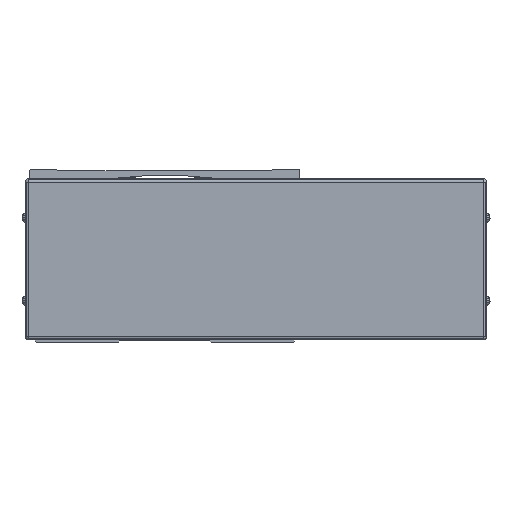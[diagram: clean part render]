
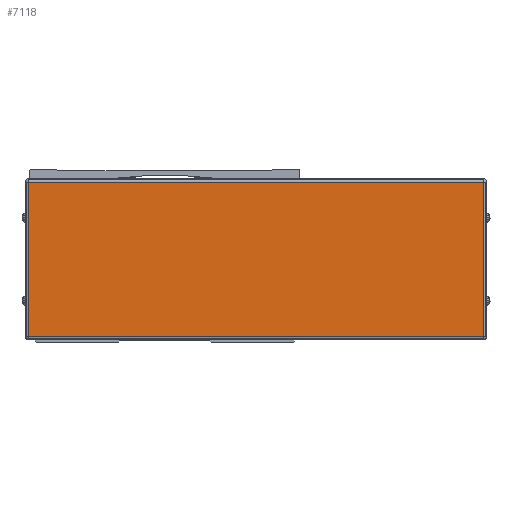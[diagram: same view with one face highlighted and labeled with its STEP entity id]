
A CAD part, front view. The second image highlights one B-rep face of the part: STEP entity #7118.
In plain terms, the highlighted planar face has unit normal (0, -1, 0).
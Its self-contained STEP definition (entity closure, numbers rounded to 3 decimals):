
#7118=ADVANCED_FACE('',(#14638),#14639,.T.);
#14638=FACE_OUTER_BOUND('',#24587,.T.);
#14639=PLANE('',#24588);
#24587=EDGE_LOOP('',(#45734,#45735,#45736,#45737));
#24588=AXIS2_PLACEMENT_3D('',#45738,#45739,#45740);
#45734=ORIENTED_EDGE('',*,*,#49924,.F.);
#45735=ORIENTED_EDGE('',*,*,#56080,.F.);
#45736=ORIENTED_EDGE('',*,*,#57300,.F.);
#45737=ORIENTED_EDGE('',*,*,#54335,.F.);
#45738=CARTESIAN_POINT('',(-545.,52.222,-2.));
#45739=DIRECTION('',(0.,-1.0,0.));
#45740=DIRECTION('',(1.0,0.,0.));
#49924=EDGE_CURVE('',#59723,#59725,#59726,.T.);
#54335=EDGE_CURVE('',#59725,#66709,#66848,.T.);
#56080=EDGE_CURVE('',#67475,#59723,#69162,.T.);
#57300=EDGE_CURVE('',#66709,#67475,#70585,.T.);
#59723=VERTEX_POINT('',#73691);
#59725=VERTEX_POINT('',#73693);
#59726=LINE('',#73694,#73695);
#66709=VERTEX_POINT('',#84055);
#66848=LINE('',#84260,#84261);
#67475=VERTEX_POINT('',#85233);
#69162=LINE('',#87770,#87771);
#70585=LINE('',#89970,#89971);
#73691=CARTESIAN_POINT('',(-682.1,52.222,44.5));
#73693=CARTESIAN_POINT('',(-407.9,52.222,44.5));
#73694=CARTESIAN_POINT('',(-545.,52.222,44.5));
#73695=VECTOR('',#92115,10.0);
#84055=CARTESIAN_POINT('',(-407.9,52.222,-48.5));
#84260=CARTESIAN_POINT('',(-407.9,52.222,-2.));
#84261=VECTOR('',#97643,10.0);
#85233=CARTESIAN_POINT('',(-682.1,52.222,-48.5));
#87770=CARTESIAN_POINT('',(-682.1,52.222,-2.));
#87771=VECTOR('',#99546,10.0);
#89970=CARTESIAN_POINT('',(-545.,52.222,-48.5));
#89971=VECTOR('',#100689,10.0);
#92115=DIRECTION('',(1.0,0.,0.));
#97643=DIRECTION('',(0.,0.,-1.0));
#99546=DIRECTION('',(0.,0.,1.0));
#100689=DIRECTION('',(-1.0,0.,0.));
